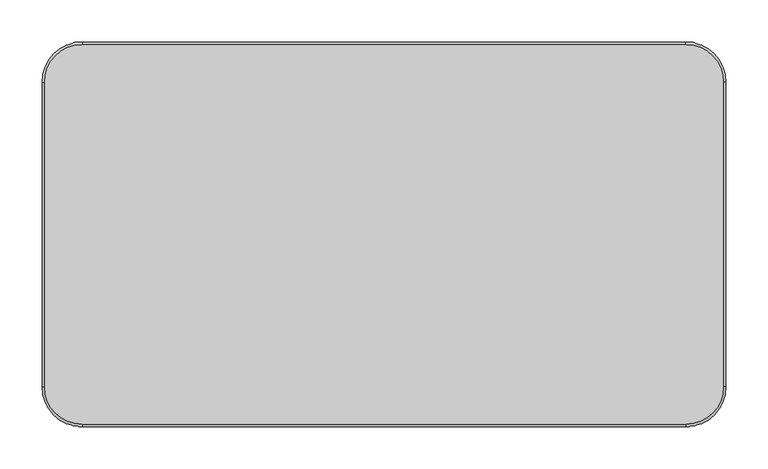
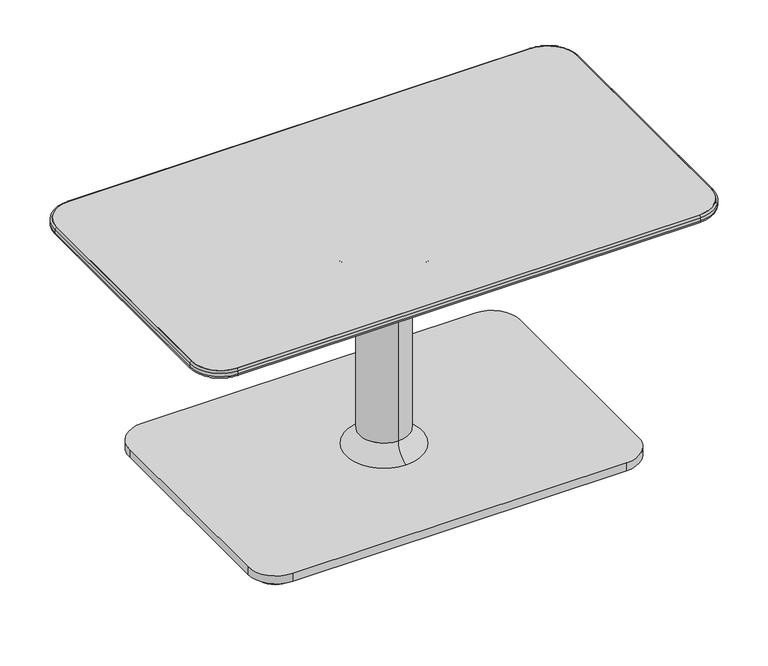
"""IFC4 building model written with IfcOpenShell, lengths in millimetres: furniture geometry, Steelcase Coalesse - Lagunitas - Table - Occasional (1) : 18D x 32W."""

from ifc_helpers import new_model, si_unit, point, frame, frame_2d, origin, origin_with_axes, place, context, project, spatial, polyline, circle_curve, ellipse_curve, trimmed, segment, composite_curve, outline, extrude, source, transform, mapped, element, save
from ifc_brep_helpers import plane_surface, cylinder_surface, revolved_surface, spline_surface, advanced_brep


def furniture_957b4211(model_context):
    return source(origin(), model_context, "Body", "SolidModel", [
        advanced_brep(
        [(403.6570059, 181.1038988, 397.469), (359.2070059, 225.5538988, 397.469), (-358.5969941, 225.5538988, 397.469), (-403.0469941, 181.1038988, 397.469), (-403.0469941, -181.1038988, 397.469), (-358.5969941, -225.5538988, 397.469), (359.2070059, -225.5538988, 397.469), (403.6570059, -181.1038988, 397.469), (335.8389826, 157.7365202, 379.6637444), (335.8389826, -157.7365202, 379.6637444), (-335.2289709, -157.7365202, 379.6637444), (-335.2289709, 157.7365202, 379.6637444)],
        [
            (0, 1, circle_curve(frame((359.2070059, 181.1038988, 397.469), z_axis=(0.0, 0.0, 1.0), x_axis=(1.0, 0.0, 0.0)), 44.45)),
            (1, 2),
            (2, 3, circle_curve(frame((-358.5969941, 181.1038988, 397.469), z_axis=(0.0, 0.0, 1.0), x_axis=(1.0, 0.0, 0.0)), 44.45)),
            (3, 4),
            (4, 5, circle_curve(frame((-358.5969941, -181.1038988, 397.469), z_axis=(0.0, 0.0, 1.0), x_axis=(1.0, 0.0, 0.0)), 44.45)),
            (5, 6),
            (6, 7, circle_curve(frame((359.2070059, -181.1038988, 397.469), z_axis=(0.0, 0.0, 1.0), x_axis=(1.0, 0.0, 0.0)), 44.45)),
            (7, 0),
            (8, 9),
            (9, 10),
            (10, 11),
            (11, 8),
            (0, 8),
            (8, 1),
            (11, 2),
            (11, 3),
            (10, 4),
            (10, 5),
            (9, 6),
            (9, 7),
        ],
        [
            plane_surface(frame((0.3050059, 0.0, 397.469), z_axis=(0.0, 0.0, 1.0), x_axis=(-1.0, 0.0, 0.0))),
            plane_surface(frame((0.3050059, 0.0, 379.6637444), z_axis=(0.0, 0.0, -1.0), x_axis=(-1.0, 0.0, 0.0))),
            spline_surface(2, 1, [[(335.8389826, 157.7365202, 379.6637444), (403.6570059, 181.1038988, 397.469)], [(335.8389826, 157.7365202, 379.6637444), (403.65700589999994, 225.55389879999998, 397.469)], [(335.8389826, 157.7365202, 379.6637444), (359.2070059, 225.5538988, 397.469)]], [3, 3], [2, 2], [0.0, 1.0], [0.0, 1.0], weights=[[1.0, 1.0], [0.7071067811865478, 0.7071067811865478], [1.0, 1.0]]),
            plane_surface(frame((0.3050059, 157.7365202, 379.6637444), z_axis=(0.0, 0.2539407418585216, -0.9672197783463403), x_axis=(-1.0, 0.0, 0.0))),
            spline_surface(2, 1, [[(-335.2289709, 157.7365202, 379.6637444), (-358.5969941, 225.5538988, 397.469)], [(-335.2289709, 157.7365202, 379.6637444), (-403.0469941, 225.55389880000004, 397.469)], [(-335.2289709, 157.7365202, 379.6637444), (-403.0469941, 181.1038988, 397.469)]], [3, 3], [2, 2], [0.0, 1.0], [0.0, 1.0], weights=[[1.0, 1.0], [0.7071067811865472, 0.7071067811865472], [1.0, 1.0]]),
            plane_surface(frame((-335.2289709, 0.0, 379.6637444), z_axis=(-0.2539384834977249, 0.0, -0.967220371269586), x_axis=(0.0, -1.0, 0.0))),
            spline_surface(2, 1, [[(-335.2289709, -157.7365202, 379.6637444), (-403.0469941, -181.1038988, 397.469)], [(-335.2289709, -157.7365202, 379.6637444), (-403.0469941, -225.55389879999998, 397.469)], [(-335.2289709, -157.7365202, 379.6637444), (-358.5969941, -225.5538988, 397.469)]], [3, 3], [2, 2], [0.0, 1.0], [0.0, 1.0], weights=[[1.0, 1.0], [0.7071067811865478, 0.7071067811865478], [1.0, 1.0]]),
            plane_surface(frame((0.3050059, -157.7365202, 379.6637444), z_axis=(0.0, -0.25394074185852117, -0.9672197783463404), x_axis=(1.0, 0.0, 0.0))),
            spline_surface(2, 1, [[(335.8389826, -157.7365202, 379.6637444), (359.2070059, -225.5538988, 397.469)], [(335.8389826, -157.7365202, 379.6637444), (403.65700590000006, -225.55389880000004, 397.469)], [(335.8389826, -157.7365202, 379.6637444), (403.6570059, -181.1038988, 397.469)]], [3, 3], [2, 2], [0.0, 1.0], [0.0, 1.0], weights=[[1.0, 1.0], [0.7071067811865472, 0.7071067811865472], [1.0, 1.0]]),
            plane_surface(frame((335.8389826, 0.0, 379.6637444), z_axis=(0.25393848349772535, 0.0, -0.9672203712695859), x_axis=(0.0, 1.0, 0.0))),
        ],
        [
            (0, [[1, 2, 3, 4, 5, 6, 7, 8]]),
            (1, [[9, 10, 11, 12]]),
            (2, [[-1, 13, 14]]),
            (3, [[-12, 15, -2, -14]]),
            (4, [[-3, -15, 16]]),
            (5, [[-11, 17, -4, -16]]),
            (6, [[-5, -17, 18]]),
            (7, [[-10, 19, -6, -18]]),
            (8, [[-7, -19, 20]]),
            (9, [[-9, -13, -8, -20]]),
        ],
    ),
        extrude(outline(composite_curve([segment(trimmed(circle_curve(frame_2d((359.2070059, 181.1038988)), 44.45), [point((359.2070059, 225.5538988))], [point((403.6570059, 181.1038988))], False, "CARTESIAN"), True, "CONTINUOUS"), segment(polyline([(403.6570059, 181.1038988), (403.6570059, -181.1038988)]), True, "CONTINUOUS"), segment(trimmed(circle_curve(frame_2d((359.2070059, -181.1038988)), 44.45), [point((403.6570059, -181.1038988))], [point((359.2070059, -225.5538988))], False, "CARTESIAN"), True, "CONTINUOUS"), segment(polyline([(359.2070059, -225.5538988), (-358.5969941, -225.5538988)]), True, "CONTINUOUS"), segment(trimmed(circle_curve(frame_2d((-358.5969941, -181.1038988)), 44.45), [point((-358.5969941, -225.5538988))], [point((-403.0469941, -181.1038988))], False, "CARTESIAN"), True, "CONTINUOUS"), segment(polyline([(-403.0469941, -181.1038988), (-403.0469941, 181.1038988)]), True, "CONTINUOUS"), segment(trimmed(circle_curve(frame_2d((-358.5969941, 181.1038988)), 44.45), [point((-403.0469941, 181.1038988))], [point((-358.5969941, 225.5538988))], False, "CARTESIAN"), True, "CONTINUOUS"), segment(polyline([(-358.5969941, 225.5538988), (359.2070059, 225.5538988)]), True, "CONTINUOUS")], self_intersect=False)), frame((0.0, 0.0, 397.469), z_axis=(0.0, 0.0, 1.0), x_axis=(1.0, 0.0, 0.0)), (0.0, 0.0, 1.0), 12.0215427),
        extrude(outline(composite_curve([segment(trimmed(circle_curve(frame_2d((-263.0703146, 163.3047663)), 25.4), [point((-288.4703146, 163.3047663))], [point((-237.6703146, 163.3047663))], False, "CARTESIAN"), True, "CONTINUOUS"), segment(trimmed(circle_curve(frame_2d((-263.0703146, 163.3047663)), 25.4), [point((-237.6703146, 163.3047663))], [point((-288.4703146, 163.3047663))], False, "CARTESIAN"), True, "CONTINUOUS")], self_intersect=False)), origin_with_axes(), (0.0, 0.0, 1.0), 10.6571495),
        extrude(outline(composite_curve([segment(trimmed(circle_curve(frame_2d((263.6803263, 163.3047663)), 25.4), [point((238.2803263, 163.3047663))], [point((289.0803263, 163.3047663))], False, "CARTESIAN"), True, "CONTINUOUS"), segment(trimmed(circle_curve(frame_2d((263.6803263, 163.3047663)), 25.4), [point((289.0803263, 163.3047663))], [point((238.2803263, 163.3047663))], False, "CARTESIAN"), True, "CONTINUOUS")], self_intersect=False)), origin_with_axes(), (0.0, 0.0, 1.0), 10.6571495),
        extrude(outline(composite_curve([segment(trimmed(circle_curve(frame_2d((263.6803263, -163.3047663)), 25.4), [point((238.2803263, -163.3047663))], [point((289.0803263, -163.3047663))], False, "CARTESIAN"), True, "CONTINUOUS"), segment(trimmed(circle_curve(frame_2d((263.6803263, -163.3047663)), 25.4), [point((289.0803263, -163.3047663))], [point((238.2803263, -163.3047663))], False, "CARTESIAN"), True, "CONTINUOUS")], self_intersect=False)), origin_with_axes(), (0.0, 0.0, 1.0), 10.6571495),
        extrude(outline(composite_curve([segment(trimmed(circle_curve(frame_2d((-263.0703146, -163.3047663)), 25.4), [point((-288.4703146, -163.3047663))], [point((-237.6703146, -163.3047663))], False, "CARTESIAN"), True, "CONTINUOUS"), segment(trimmed(circle_curve(frame_2d((-263.0703146, -163.3047663)), 25.4), [point((-237.6703146, -163.3047663))], [point((-288.4703146, -163.3047663))], False, "CARTESIAN"), True, "CONTINUOUS")], self_intersect=False)), origin_with_axes(), (0.0, 0.0, 1.0), 10.6571495),
        extrude(outline(composite_curve([segment(trimmed(circle_curve(frame_2d((259.1310059, 158.75)), 44.45), [point((259.1310059, 203.2))], [point((303.5810059, 158.75))], False, "CARTESIAN"), True, "CONTINUOUS"), segment(polyline([(303.5810059, 158.75), (303.5810059, -158.75)]), True, "CONTINUOUS"), segment(trimmed(circle_curve(frame_2d((259.1310059, -158.75)), 44.45), [point((303.5810059, -158.75))], [point((259.1310059, -203.2))], False, "CARTESIAN"), True, "CONTINUOUS"), segment(polyline([(259.1310059, -203.2), (-258.5209941, -203.2)]), True, "CONTINUOUS"), segment(trimmed(circle_curve(frame_2d((-258.5209941, -158.75)), 44.45), [point((-258.5209941, -203.2))], [point((-302.9709941, -158.75))], False, "CARTESIAN"), True, "CONTINUOUS"), segment(polyline([(-302.9709941, -158.75), (-302.9709941, 158.75)]), True, "CONTINUOUS"), segment(trimmed(circle_curve(frame_2d((-258.5209941, 158.75)), 44.45), [point((-302.9709941, 158.75))], [point((-258.5209941, 203.2))], False, "CARTESIAN"), True, "CONTINUOUS"), segment(polyline([(-258.5209941, 203.2), (259.1310059, 203.2)]), True, "CONTINUOUS")], self_intersect=False)), frame((0.0, 0.0, 10.6571495), z_axis=(0.0, 0.0, 1.0), x_axis=(1.0, 0.0, 0.0)), (0.0, 0.0, 1.0), 12.7000004),
        advanced_brep(
        [(-406.0930954, 181.1038988, 401.2622643), (-358.5969941, 228.6, 401.2622643), (-358.5969941, 225.5538988, 397.469), (-403.0469941, 181.1038988, 397.469), (-406.0930954, 181.1038988, 406.4504815), (-358.5969941, 228.6, 406.4504815), (-403.0469941, 181.1038988, 409.4965828), (-358.5969941, 225.5538988, 409.4965828), (-403.0469941, -181.1038988, 397.469), (-406.0930954, -181.1038988, 401.2622643), (-406.0930954, -181.1038988, 406.4504815), (-403.0469941, -181.1038988, 409.4965828), (-358.5969941, -228.6, 401.2622643), (-358.5969941, -225.5538988, 397.469), (-358.5969941, -228.6, 406.4504815), (-358.5969941, -225.5538988, 409.4965828), (359.2070059, -225.5538988, 397.469), (359.2070059, -228.6, 401.2622643), (359.2070059, -228.6, 406.4504815), (359.2070059, -225.5538988, 409.4965828), (406.7031071, -181.1038988, 401.2622643), (403.6570059, -181.1038988, 397.469), (406.7031071, -181.1038988, 406.4504815), (403.6570059, -181.1038988, 409.4965828), (403.6570059, 181.1038988, 397.469), (406.7031071, 181.1038988, 401.2622643), (406.7031071, 181.1038988, 406.4504815), (403.6570059, 181.1038988, 409.4965828), (359.2070059, 228.6, 401.2622643), (359.2070059, 225.5538988, 397.469), (359.2070059, 228.6, 406.4504815), (359.2070059, 225.5538988, 409.4965828)],
        [
            (0, 1, circle_curve(frame((-358.5969941, 181.1038988, 401.2622643), z_axis=(0.0, 0.0, -1.0), x_axis=(0.0, 1.0, 0.0)), 47.4961012)),
            (1, 2, circle_curve(frame((-358.5969941, 224.7151017, 401.2622643), z_axis=(-1.0, 0.0, 0.0), x_axis=(0.0, -1.0, 0.0)), 3.8848983)),
            (2, 3, circle_curve(frame((-358.5969941, 181.1038988, 397.469), z_axis=(0.0, 0.0, 1.0), x_axis=(0.0, 1.0, 0.0)), 44.45)),
            (3, 0, circle_curve(frame((-402.2081971, 181.1038988, 401.2622643), z_axis=(0.0, 1.0, 0.0), x_axis=(1.0, 0.0, 0.0)), 3.8848983)),
            (4, 5, circle_curve(frame((-358.5969941, 181.1038988, 406.4504815), z_axis=(0.0, 0.0, -1.0), x_axis=(0.0, 1.0, 0.0)), 47.4961012)),
            (5, 1),
            (0, 4),
            (6, 7, circle_curve(frame((-358.5969941, 181.1038988, 409.4965828), z_axis=(0.0, 0.0, -1.0), x_axis=(0.0, 1.0, 0.0)), 44.45)),
            (7, 5, circle_curve(frame((-358.5969941, 225.5538988, 406.4504815), z_axis=(-1.0, 0.0, 0.0), x_axis=(0.0, -1.0, 0.0)), 3.0461012)),
            (4, 6, circle_curve(frame((-403.0469941, 181.1038988, 406.4504815), z_axis=(0.0, 1.0, 0.0), x_axis=(1.0, 0.0, 0.0)), 3.0461012)),
            (2, 7),
            (6, 3),
            (3, 8),
            (8, 9, circle_curve(frame((-402.2081971, -181.1038988, 401.2622643), z_axis=(0.0, 1.0, 0.0), x_axis=(1.0, 0.0, 0.0)), 3.8848983)),
            (9, 0),
            (9, 10),
            (10, 4),
            (10, 11, circle_curve(frame((-403.0469941, -181.1038988, 406.4504815), z_axis=(0.0, 1.0, 0.0), x_axis=(1.0, 0.0, 0.0)), 3.0461012)),
            (11, 6),
            (11, 8),
            (12, 9, circle_curve(frame((-358.5969941, -181.1038988, 401.2622643), z_axis=(0.0, 0.0, -1.0), x_axis=(-1.0, 0.0, 0.0)), 47.4961012)),
            (8, 13, circle_curve(frame((-358.5969941, -181.1038988, 397.469), z_axis=(0.0, 0.0, 1.0), x_axis=(-1.0, 0.0, 0.0)), 44.45)),
            (13, 12, circle_curve(frame((-358.5969941, -224.7151017, 401.2622643), z_axis=(-1.0, 0.0, 0.0), x_axis=(0.0, 1.0, 0.0)), 3.8848983)),
            (14, 10, circle_curve(frame((-358.5969941, -181.1038988, 406.4504815), z_axis=(0.0, 0.0, -1.0), x_axis=(-1.0, 0.0, 0.0)), 47.4961012)),
            (12, 14),
            (15, 11, circle_curve(frame((-358.5969941, -181.1038988, 409.4965828), z_axis=(0.0, 0.0, -1.0), x_axis=(-1.0, 0.0, 0.0)), 44.45)),
            (14, 15, circle_curve(frame((-358.5969941, -225.5538988, 406.4504815), z_axis=(-1.0, 0.0, 0.0), x_axis=(0.0, 1.0, 0.0)), 3.0461012)),
            (15, 13),
            (13, 16),
            (16, 17, circle_curve(frame((359.2070059, -224.7151017, 401.2622643), z_axis=(-1.0, 0.0, 0.0), x_axis=(0.0, 1.0, 0.0)), 3.8848983)),
            (17, 12),
            (17, 18),
            (18, 14),
            (18, 19, circle_curve(frame((359.2070059, -225.5538988, 406.4504815), z_axis=(-1.0, 0.0, 0.0), x_axis=(0.0, 1.0, 0.0)), 3.0461012)),
            (19, 15),
            (19, 16),
            (20, 17, circle_curve(frame((359.2070059, -181.1038988, 401.2622643), z_axis=(0.0, 0.0, -1.0), x_axis=(0.0, -1.0, 0.0)), 47.4961012)),
            (16, 21, circle_curve(frame((359.2070059, -181.1038988, 397.469), z_axis=(0.0, 0.0, 1.0), x_axis=(0.0, -1.0, 0.0)), 44.45)),
            (21, 20, circle_curve(frame((402.8182088, -181.1038988, 401.2622643), z_axis=(0.0, -1.0, 0.0), x_axis=(-1.0, 0.0, 0.0)), 3.8848983)),
            (22, 18, circle_curve(frame((359.2070059, -181.1038988, 406.4504815), z_axis=(0.0, 0.0, -1.0), x_axis=(0.0, -1.0, 0.0)), 47.4961012)),
            (20, 22),
            (23, 19, circle_curve(frame((359.2070059, -181.1038988, 409.4965828), z_axis=(0.0, 0.0, -1.0), x_axis=(0.0, -1.0, 0.0)), 44.45)),
            (22, 23, circle_curve(frame((403.6570059, -181.1038988, 406.4504815), z_axis=(0.0, -1.0, 0.0), x_axis=(-1.0, 0.0, 0.0)), 3.0461012)),
            (23, 21),
            (21, 24),
            (24, 25, circle_curve(frame((402.8182088, 181.1038988, 401.2622643), z_axis=(0.0, -1.0, 0.0), x_axis=(-1.0, 0.0, 0.0)), 3.8848983)),
            (25, 20),
            (25, 26),
            (26, 22),
            (26, 27, circle_curve(frame((403.6570059, 181.1038988, 406.4504815), z_axis=(0.0, -1.0, 0.0), x_axis=(-1.0, 0.0, 0.0)), 3.0461012)),
            (27, 23),
            (27, 24),
            (28, 25, circle_curve(frame((359.2070059, 181.1038988, 401.2622643), z_axis=(0.0, 0.0, -1.0), x_axis=(1.0, 0.0, 0.0)), 47.4961012)),
            (24, 29, circle_curve(frame((359.2070059, 181.1038988, 397.469), z_axis=(0.0, 0.0, 1.0), x_axis=(1.0, 0.0, 0.0)), 44.45)),
            (29, 28, circle_curve(frame((359.2070059, 224.7151017, 401.2622643), z_axis=(1.0, 0.0, 0.0), x_axis=(0.0, -1.0, 0.0)), 3.8848983)),
            (30, 26, circle_curve(frame((359.2070059, 181.1038988, 406.4504815), z_axis=(0.0, 0.0, -1.0), x_axis=(1.0, 0.0, 0.0)), 47.4961012)),
            (28, 30),
            (31, 27, circle_curve(frame((359.2070059, 181.1038988, 409.4965828), z_axis=(0.0, 0.0, -1.0), x_axis=(1.0, 0.0, 0.0)), 44.45)),
            (30, 31, circle_curve(frame((359.2070059, 225.5538988, 406.4504815), z_axis=(1.0, 0.0, 0.0), x_axis=(0.0, -1.0, 0.0)), 3.0461012)),
            (31, 29),
            (29, 2),
            (1, 28),
            (5, 30),
            (7, 31),
        ],
        [
            revolved_surface(trimmed(ellipse_curve(frame((-358.5969941, 224.7151017, 401.2622643), z_axis=(1.0, 0.0, 0.0), x_axis=(0.0, -1.0, 0.0)), 3.8848983, 3.8848983), [point((-358.5969941, 225.5538988, 397.469))], [point((-358.5969941, 228.6, 401.2622643))], True, "CARTESIAN"), (-358.5969941, 181.1038988, 0.0), (0.0, 0.0, 1.0)),
            cylinder_surface(frame((-358.5969941, 181.1038988, 0.0), z_axis=(0.0, 0.0, 1.0), x_axis=(0.0, 1.0, 0.0)), 47.4961012),
            revolved_surface(trimmed(ellipse_curve(frame((-358.5969941, 225.5538988, 406.4504815), z_axis=(1.0, 0.0, 0.0), x_axis=(0.0, -1.0, 0.0)), 3.0461012, 3.0461012), [point((-358.5969941, 228.6, 406.4504815))], [point((-358.5969941, 225.5538988, 409.4965828))], True, "CARTESIAN"), (-358.5969941, 181.1038988, 0.0), (0.0, 0.0, 1.0)),
            revolved_surface(polyline([(-358.5969941, 225.5538988, 409.4965828), (-358.5969941, 225.5538988, 397.469)]), (-358.5969941, 181.1038988, 0.0), (0.0, 0.0, 1.0)),
            cylinder_surface(frame((-402.2081971, 181.1038988, 401.2622643), z_axis=(0.0, 1.0, 0.0), x_axis=(1.0, 0.0, 0.0)), 3.8848983),
            plane_surface(frame((-406.0930954, 181.1038988, 401.2622643), z_axis=(-1.0, 0.0, 0.0), x_axis=(0.0, -1.0, 0.0))),
            cylinder_surface(frame((-403.0469941, 181.1038988, 406.4504815), z_axis=(0.0, 1.0, 0.0), x_axis=(1.0, 0.0, 0.0)), 3.0461012),
            plane_surface(frame((-403.0469941, 181.1038988, 409.4965828), z_axis=(1.0, 0.0, 0.0), x_axis=(0.0, -1.0, 0.0))),
            revolved_surface(trimmed(ellipse_curve(frame((-402.2081971, -181.1038988, 401.2622643), z_axis=(0.0, 1.0, 0.0), x_axis=(1.0, 0.0, 0.0)), 3.8848983, 3.8848983), [point((-403.0469941, -181.1038988, 397.469))], [point((-406.0930954, -181.1038988, 401.2622643))], True, "CARTESIAN"), (-358.5969941, -181.1038988, 0.0), (0.0, 0.0, 1.0)),
            cylinder_surface(frame((-358.5969941, -181.1038988, 0.0), z_axis=(0.0, 0.0, 1.0), x_axis=(-1.0, 0.0, 0.0)), 47.4961012),
            revolved_surface(trimmed(ellipse_curve(frame((-403.0469941, -181.1038988, 406.4504815), z_axis=(0.0, 1.0, 0.0), x_axis=(1.0, 0.0, 0.0)), 3.0461012, 3.0461012), [point((-406.0930954, -181.1038988, 406.4504815))], [point((-403.0469941, -181.1038988, 409.4965828))], True, "CARTESIAN"), (-358.5969941, -181.1038988, 0.0), (0.0, 0.0, 1.0)),
            revolved_surface(polyline([(-403.0469941, -181.1038988, 409.4965828), (-403.0469941, -181.1038988, 397.469)]), (-358.5969941, -181.1038988, 0.0), (0.0, 0.0, 1.0)),
            cylinder_surface(frame((-358.5969941, -224.7151017, 401.2622643), z_axis=(-1.0, 0.0, 0.0), x_axis=(0.0, 1.0, 0.0)), 3.8848983),
            plane_surface(frame((-358.5969941, -228.6, 401.2622643), z_axis=(0.0, -1.0, 0.0), x_axis=(1.0, 0.0, 0.0))),
            cylinder_surface(frame((-358.5969941, -225.5538988, 406.4504815), z_axis=(-1.0, 0.0, 0.0), x_axis=(0.0, 1.0, 0.0)), 3.0461012),
            plane_surface(frame((-358.5969941, -225.5538988, 409.4965828), z_axis=(0.0, 1.0, 0.0), x_axis=(1.0, 0.0, 0.0))),
            revolved_surface(trimmed(ellipse_curve(frame((359.2070059, -224.7151017, 401.2622643), z_axis=(-1.0, 0.0, 0.0), x_axis=(0.0, 1.0, 0.0)), 3.8848983, 3.8848983), [point((359.2070059, -225.5538988, 397.469))], [point((359.2070059, -228.6, 401.2622643))], True, "CARTESIAN"), (359.2070059, -181.1038988, 0.0), (0.0, 0.0, 1.0)),
            cylinder_surface(frame((359.2070059, -181.1038988, 0.0), z_axis=(0.0, 0.0, 1.0), x_axis=(0.0, -1.0, 0.0)), 47.4961012),
            revolved_surface(trimmed(ellipse_curve(frame((359.2070059, -225.5538988, 406.4504815), z_axis=(-1.0, 0.0, 0.0), x_axis=(0.0, 1.0, 0.0)), 3.0461012, 3.0461012), [point((359.2070059, -228.6, 406.4504815))], [point((359.2070059, -225.5538988, 409.4965828))], True, "CARTESIAN"), (359.2070059, -181.1038988, 0.0), (0.0, 0.0, 1.0)),
            revolved_surface(polyline([(359.2070059, -225.5538988, 409.4965828), (359.2070059, -225.5538988, 397.469)]), (359.2070059, -181.1038988, 0.0), (0.0, 0.0, 1.0)),
            cylinder_surface(frame((402.8182088, -181.1038988, 401.2622643), z_axis=(0.0, -1.0, 0.0), x_axis=(-1.0, 0.0, 0.0)), 3.8848983),
            plane_surface(frame((406.7031071, -181.1038988, 401.2622643), z_axis=(1.0, 0.0, 0.0), x_axis=(0.0, 1.0, 0.0))),
            cylinder_surface(frame((403.6570059, -181.1038988, 406.4504815), z_axis=(0.0, -1.0, 0.0), x_axis=(-1.0, 0.0, 0.0)), 3.0461012),
            plane_surface(frame((403.6570059, -181.1038988, 409.4965828), z_axis=(-1.0, 0.0, 0.0), x_axis=(0.0, 1.0, 0.0))),
            revolved_surface(trimmed(ellipse_curve(frame((402.8182088, 181.1038988, 401.2622643), z_axis=(0.0, -1.0, 0.0), x_axis=(-1.0, 0.0, 0.0)), 3.8848983, 3.8848983), [point((403.6570059, 181.1038988, 397.469))], [point((406.7031071, 181.1038988, 401.2622643))], True, "CARTESIAN"), (359.2070059, 181.1038988, 0.0), (0.0, 0.0, 1.0)),
            cylinder_surface(frame((359.2070059, 181.1038988, 0.0), z_axis=(0.0, 0.0, 1.0), x_axis=(1.0, 0.0, 0.0)), 47.4961012),
            revolved_surface(trimmed(ellipse_curve(frame((403.6570059, 181.1038988, 406.4504815), z_axis=(0.0, -1.0, 0.0), x_axis=(-1.0, 0.0, 0.0)), 3.0461012, 3.0461012), [point((406.7031071, 181.1038988, 406.4504815))], [point((403.6570059, 181.1038988, 409.4965828))], True, "CARTESIAN"), (359.2070059, 181.1038988, 0.0), (0.0, 0.0, 1.0)),
            revolved_surface(polyline([(403.6570059, 181.1038988, 409.4965828), (403.6570059, 181.1038988, 397.469)]), (359.2070059, 181.1038988, 0.0), (0.0, 0.0, 1.0)),
            cylinder_surface(frame((359.2070059, 224.7151017, 401.2622643), z_axis=(1.0, 0.0, 0.0), x_axis=(0.0, -1.0, 0.0)), 3.8848983),
            plane_surface(frame((359.2070059, 228.6, 401.2622643), z_axis=(0.0, 1.0, 0.0), x_axis=(-1.0, 0.0, 0.0))),
            cylinder_surface(frame((359.2070059, 225.5538988, 406.4504815), z_axis=(1.0, 0.0, 0.0), x_axis=(0.0, -1.0, 0.0)), 3.0461012),
            plane_surface(frame((359.2070059, 225.5538988, 409.4965828), z_axis=(0.0, -1.0, 0.0), x_axis=(-1.0, 0.0, 0.0))),
        ],
        [
            (0, [[1, 2, 3, 4]]),
            (1, [[5, 6, -1, 7]]),
            (2, [[8, 9, -5, 10]]),
            (3, [[-3, 11, -8, 12]]),
            (4, [[-4, 13, 14, 15]]),
            (5, [[-7, -15, 16, 17]]),
            (6, [[-10, -17, 18, 19]]),
            (7, [[-12, -19, 20, -13]]),
            (8, [[21, -14, 22, 23]]),
            (9, [[24, -16, -21, 25]]),
            (10, [[26, -18, -24, 27]]),
            (11, [[-22, -20, -26, 28]]),
            (12, [[-23, 29, 30, 31]]),
            (13, [[-25, -31, 32, 33]]),
            (14, [[-27, -33, 34, 35]]),
            (15, [[-28, -35, 36, -29]]),
            (16, [[37, -30, 38, 39]]),
            (17, [[40, -32, -37, 41]]),
            (18, [[42, -34, -40, 43]]),
            (19, [[-38, -36, -42, 44]]),
            (20, [[-39, 45, 46, 47]]),
            (21, [[-41, -47, 48, 49]]),
            (22, [[-43, -49, 50, 51]]),
            (23, [[-44, -51, 52, -45]]),
            (24, [[53, -46, 54, 55]]),
            (25, [[56, -48, -53, 57]]),
            (26, [[58, -50, -56, 59]]),
            (27, [[-54, -52, -58, 60]]),
            (28, [[-55, 61, -2, 62]]),
            (29, [[-57, -62, -6, 63]]),
            (30, [[-59, -63, -9, 64]]),
            (31, [[-60, -64, -11, -61]]),
        ],
    ),
        advanced_brep(
        [(0.3050059, -37.9287895, 316.8396771), (0.3050059, 37.9287895, 316.8396771), (0.3050059, 37.9287895, 50.0429711), (0.3050059, -37.9287895, 50.0429711), (0.3050059, -124.8292749, 376.2012377), (0.3050059, 124.8292749, 376.2012377), (0.3050059, 108.7456186, 376.2012377), (0.3050059, -108.7456186, 376.2012377), (0.3050059, -126.8430328, 379.6637444), (0.3050059, 126.8430328, 379.6637444), (0.3050059, 0.0, 379.6637444), (0.3050059, -60.2304855, 23.3571499), (0.3050059, 60.2304855, 23.3571499), (0.3050059, 0.0, 23.3571499), (0.3050059, -43.2397657, 328.4935507), (0.3050059, 43.2397657, 328.4935507), (0.3050059, -90.1028171, 369.2309798), (0.3050059, 90.1028171, 369.2309798)],
        [
            (0, 1, circle_curve(frame((0.3050059, 0.0, 316.8396771), z_axis=(0.0, 0.0, -1.0), x_axis=(0.0, 1.0, 0.0)), 37.9287895)),
            (1, 2),
            (2, 3, circle_curve(frame((0.3050059, 0.0, 50.0429711), z_axis=(0.0, 0.0, 1.0), x_axis=(0.0, 1.0, 0.0)), 37.9287895)),
            (3, 0),
            (1, 0, circle_curve(frame((0.3050059, 0.0, 316.8396771), z_axis=(0.0, 0.0, -1.0), x_axis=(0.0, 1.0, 0.0)), 37.9287895)),
            (3, 2, circle_curve(frame((0.3050059, 0.0, 50.0429711), z_axis=(0.0, 0.0, 1.0), x_axis=(0.0, 1.0, 0.0)), 37.9287895)),
            (4, 5, circle_curve(frame((0.3050059, 0.0, 376.2012377), z_axis=(0.0, 0.0, -1.0), x_axis=(0.0, 1.0, 0.0)), 124.8292749)),
            (5, 6),
            (6, 7, circle_curve(frame((0.3050059, 0.0, 376.2012377), z_axis=(0.0, 0.0, 1.0), x_axis=(0.0, 1.0, 0.0)), 108.7456186)),
            (7, 4),
            (5, 4, circle_curve(frame((0.3050059, 0.0, 376.2012377), z_axis=(0.0, 0.0, -1.0), x_axis=(0.0, 1.0, 0.0)), 124.8292749)),
            (7, 6, circle_curve(frame((0.3050059, 0.0, 376.2012377), z_axis=(0.0, 0.0, 1.0), x_axis=(0.0, 1.0, 0.0)), 108.7456186)),
            (8, 9, circle_curve(frame((0.3050059, 0.0, 379.6637444), z_axis=(0.0, 0.0, -1.0), x_axis=(0.0, 1.0, 0.0)), 126.8430328)),
            (9, 5, circle_curve(frame((0.3050059, 124.8292749, 378.5180813), z_axis=(-1.0, 0.0, 0.0), x_axis=(0.0, 1.0, 0.0)), 2.3168437)),
            (4, 8, circle_curve(frame((0.3050059, -124.8292749, 378.5180813), z_axis=(-1.0, 0.0, 0.0), x_axis=(0.0, -1.0, 0.0)), 2.3168437)),
            (9, 8, circle_curve(frame((0.3050059, 0.0, 379.6637444), z_axis=(0.0, 0.0, -1.0), x_axis=(0.0, 1.0, 0.0)), 126.8430328)),
            (10, 9),
            (8, 10),
            (11, 12, circle_curve(frame((0.3050059, 0.0, 23.3571499), z_axis=(0.0, 0.0, -1.0), x_axis=(0.0, 1.0, 0.0)), 60.2304855)),
            (12, 13),
            (13, 11),
            (12, 11, circle_curve(frame((0.3050059, 0.0, 23.3571499), z_axis=(0.0, 0.0, -1.0), x_axis=(0.0, 1.0, 0.0)), 60.2304855)),
            (2, 12, circle_curve(frame((0.3050059, 65.045532, 50.0429711), z_axis=(1.0, 0.0, 0.0), x_axis=(0.0, 1.0, 0.0)), 27.1167425)),
            (11, 3, circle_curve(frame((0.3050059, -65.045532, 50.0429711), z_axis=(1.0, 0.0, 0.0), x_axis=(0.0, -1.0, 0.0)), 27.1167425)),
            (14, 15, circle_curve(frame((0.3050059, 0.0, 328.4935507), z_axis=(0.0, 0.0, -1.0), x_axis=(0.0, 1.0, 0.0)), 43.2397657)),
            (15, 1, circle_curve(frame((0.3050059, 53.3703235, 316.8396771), z_axis=(1.0, 0.0, 0.0), x_axis=(0.0, 1.0, 0.0)), 15.441534)),
            (0, 14, circle_curve(frame((0.3050059, -53.3703235, 316.8396771), z_axis=(1.0, 0.0, 0.0), x_axis=(0.0, -1.0, 0.0)), 15.441534)),
            (15, 14, circle_curve(frame((0.3050059, 0.0, 328.4935507), z_axis=(0.0, 0.0, -1.0), x_axis=(0.0, 1.0, 0.0)), 43.2397657)),
            (16, 17, circle_curve(frame((0.3050059, 0.0, 369.2309798), z_axis=(0.0, 0.0, -1.0), x_axis=(0.0, 1.0, 0.0)), 90.1028171)),
            (17, 15),
            (14, 16),
            (17, 16, circle_curve(frame((0.3050059, 0.0, 369.2309798), z_axis=(0.0, 0.0, -1.0), x_axis=(0.0, 1.0, 0.0)), 90.1028171)),
            (6, 17, circle_curve(frame((0.3050059, 108.7456186, 347.78489), z_axis=(1.0, 0.0, 0.0), x_axis=(0.0, 1.0, 0.0)), 28.4163477)),
            (16, 7, circle_curve(frame((0.3050059, -108.7456186, 347.78489), z_axis=(1.0, 0.0, 0.0), x_axis=(0.0, -1.0, 0.0)), 28.4163477)),
        ],
        [
            cylinder_surface(frame((0.3050059, 0.0, 738.9341599), z_axis=(0.0, 0.0, 1.0), x_axis=(0.0, 1.0, 0.0)), 37.9287895),
            plane_surface(frame((0.3050059, 0.0, 376.2012377), z_axis=(0.0, 0.0, -1.0), x_axis=(0.0, 1.0, 0.0))),
            revolved_surface(trimmed(ellipse_curve(frame((0.3050059, 124.8292749, 378.5180813), z_axis=(1.0, 0.0, 0.0), x_axis=(0.0, 1.0, 0.0)), 2.3168437, 2.3168437), [point((0.3050059, 124.8292749, 376.2012377))], [point((0.3050059, 126.8430328, 379.6637444))], True, "CARTESIAN"), (0.3050059, 0.0, 738.9341599), (0.0, 0.0, 1.0)),
            plane_surface(frame((0.3050059, 0.0, 379.6637444), z_axis=(0.0, 0.0, 1.0), x_axis=(0.0, 1.0, 0.0))),
            plane_surface(frame((0.3050059, 0.0, 23.3571499), z_axis=(0.0, 0.0, -1.0), x_axis=(0.0, 1.0, 0.0))),
            revolved_surface(trimmed(ellipse_curve(frame((0.3050059, 65.045532, 50.0429711), z_axis=(-1.0, 0.0, 0.0), x_axis=(0.0, 1.0, 0.0)), 27.1167425, 27.1167425), [point((0.3050059, 60.2304855, 23.3571499))], [point((0.3050059, 37.9287895, 50.0429711))], True, "CARTESIAN"), (0.3050059, 0.0, 738.9341599), (0.0, 0.0, 1.0)),
            revolved_surface(trimmed(ellipse_curve(frame((0.3050059, 53.3703235, 316.8396771), z_axis=(-1.0, 0.0, 0.0), x_axis=(0.0, 1.0, 0.0)), 15.441534, 15.441534), [point((0.3050059, 37.9287895, 316.8396771))], [point((0.3050059, 43.2397657, 328.4935507))], True, "CARTESIAN"), (0.3050059, 0.0, 738.9341599), (0.0, 0.0, 1.0)),
            revolved_surface(polyline([(0.3050059, 43.2397657, 328.4935507), (0.3050059, 90.1028171, 369.2309798)]), (0.3050059, 0.0, 738.9341599), (0.0, 0.0, 1.0)),
            revolved_surface(trimmed(ellipse_curve(frame((0.3050059, 108.7456186, 347.78489), z_axis=(-1.0, 0.0, 0.0), x_axis=(0.0, 1.0, 0.0)), 28.4163477, 28.4163477), [point((0.3050059, 90.1028171, 369.2309798))], [point((0.3050059, 108.7456186, 376.2012377))], True, "CARTESIAN"), (0.3050059, 0.0, 738.9341599), (0.0, 0.0, 1.0)),
        ],
        [
            (0, [[1, 2, 3, 4]]),
            (0, [[5, -4, 6, -2]]),
            (1, [[7, 8, 9, 10]]),
            (1, [[11, -10, 12, -8]]),
            (2, [[13, 14, -7, 15]]),
            (2, [[16, -15, -11, -14]]),
            (3, [[17, -13, 18]]),
            (3, [[-18, -16, -17]]),
            (4, [[19, 20, 21]]),
            (4, [[22, -21, -20]]),
            (5, [[-3, 23, -19, 24]]),
            (5, [[-6, -24, -22, -23]]),
            (6, [[25, 26, -1, 27]]),
            (6, [[28, -27, -5, -26]]),
            (7, [[29, 30, -25, 31]]),
            (7, [[32, -31, -28, -30]]),
            (8, [[-9, 33, -29, 34]]),
            (8, [[-12, -34, -32, -33]]),
        ],
    ),
    ])


if __name__ == "__main__":
    model = new_model("IFC4")
    model_context = context("Model", 3, world=origin())
    ifc_project = project(units=[si_unit("LENGTHUNIT", "METRE", prefix="MILLI")], contexts=[model_context])
    site = spatial("IfcSite", under=ifc_project)
    building = spatial("IfcBuilding", under=site)
    placement = place(None, origin())
    furniture_shape = furniture_957b4211(model_context)
    element("IfcFurniture", 1, ObjectType="Steelcase Coalesse - Lagunitas - Table - Occasional (1) : 18D x 32W", at=placement, inside=building, context=model_context, shape_type="MappedRepresentation", body=[
        mapped(furniture_shape, transform((0.0, 0.0, 0.0), x_axis=(1.0, 0.0, 0.0), y_axis=(0.0, 1.0, 0.0), z_axis=(0.0, 0.0, 1.0))),
    ])
    save(model, "model.ifc")
